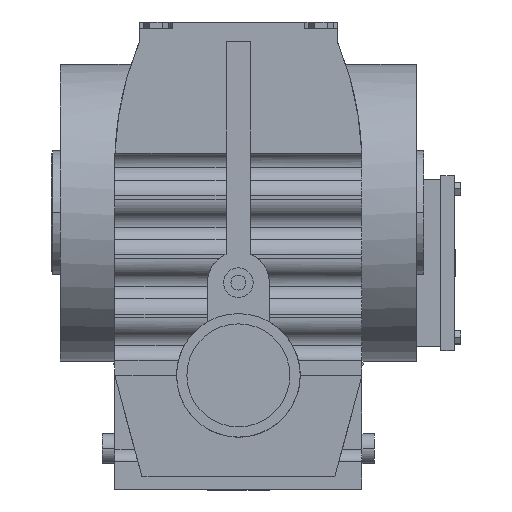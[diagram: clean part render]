
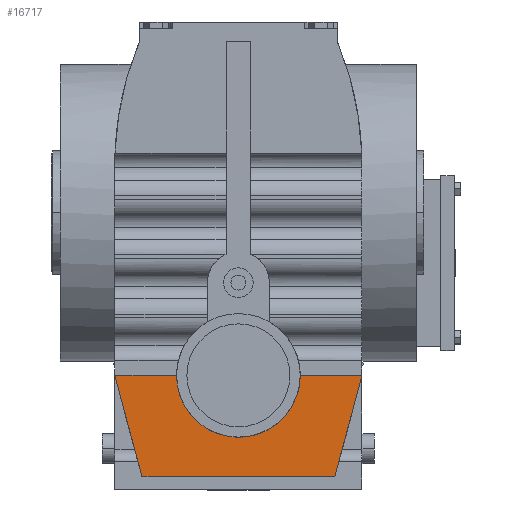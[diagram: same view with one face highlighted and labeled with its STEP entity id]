
A CAD part, top view. The second image highlights one B-rep face of the part: STEP entity #16717.
In plain terms, the highlighted planar face has unit normal (0, -0.024, 1).
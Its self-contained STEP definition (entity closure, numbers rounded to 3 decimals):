
#4879 = VERTEX_POINT('',#4880);
#4880 = CARTESIAN_POINT('',(50.,-45.933,175.5));
#4894 = PLANE('',#4895);
#4895 = AXIS2_PLACEMENT_3D('',#4896,#4897,#4898);
#4896 = CARTESIAN_POINT('',(50.,97.,175.5));
#4897 = DIRECTION('',(0.,0.,-1.));
#4898 = DIRECTION('',(0.,1.,0.));
#4922 = PLANE('',#4923);
#4923 = AXIS2_PLACEMENT_3D('',#4924,#4925,#4926);
#4924 = CARTESIAN_POINT('',(50.,-45.933,-3.));
#4925 = DIRECTION('',(0.966,-0.259,0.));
#4926 = DIRECTION('',(0.259,0.966,0.));
#7547 = VERTEX_POINT('',#7548);
#7548 = CARTESIAN_POINT('',(25.,-45.933,175.5));
#7580 = EDGE_CURVE('',#4879,#7547,#7581,.T.);
#7581 = SURFACE_CURVE('',#7582,(#7586,#7593),.PCURVE_S1.);
#7582 = LINE('',#7583,#7584);
#7583 = CARTESIAN_POINT('',(50.,-45.933,175.5));
#7584 = VECTOR('',#7585,1.);
#7585 = DIRECTION('',(-1.,0.,0.));
#7586 = PCURVE('',#4894,#7587);
#7587 = DEFINITIONAL_REPRESENTATION('',(#7588),#7592);
#7588 = LINE('',#7589,#7590);
#7589 = CARTESIAN_POINT('',(-142.933,0.));
#7590 = VECTOR('',#7591,1.);
#7591 = DIRECTION('',(0.,-1.));
#7592 = ( GEOMETRIC_REPRESENTATION_CONTEXT(2) 
PARAMETRIC_REPRESENTATION_CONTEXT() REPRESENTATION_CONTEXT('2D SPACE',''
  ) );
#7593 = PCURVE('',#7594,#7599);
#7594 = PLANE('',#7595);
#7595 = AXIS2_PLACEMENT_3D('',#7596,#7597,#7598);
#7596 = CARTESIAN_POINT('',(50.,-87.,174.5));
#7597 = DIRECTION('',(0.,0.024,-1.));
#7598 = DIRECTION('',(0.,1.,0.024));
#7599 = DEFINITIONAL_REPRESENTATION('',(#7600),#7604);
#7600 = LINE('',#7601,#7602);
#7601 = CARTESIAN_POINT('',(41.079,0.));
#7602 = VECTOR('',#7603,1.);
#7603 = DIRECTION('',(0.,-1.));
#7604 = ( GEOMETRIC_REPRESENTATION_CONTEXT(2) 
PARAMETRIC_REPRESENTATION_CONTEXT() REPRESENTATION_CONTEXT('2D SPACE',''
  ) );
#8781 = PLANE('',#8782);
#8782 = AXIS2_PLACEMENT_3D('',#8783,#8784,#8785);
#8783 = CARTESIAN_POINT('',(-50.,-45.933,-3.));
#8784 = DIRECTION('',(-0.966,-0.259,0.));
#8785 = DIRECTION('',(0.259,-0.966,0.));
#8926 = PLANE('',#8927);
#8927 = AXIS2_PLACEMENT_3D('',#8928,#8929,#8930);
#8928 = CARTESIAN_POINT('',(50.,-87.,26.5));
#8929 = DIRECTION('',(0.,1.,0.));
#8930 = DIRECTION('',(0.,0.,1.));
#8964 = EDGE_CURVE('',#4879,#8965,#8967,.T.);
#8965 = VERTEX_POINT('',#8966);
#8966 = CARTESIAN_POINT('',(38.996,-87.,174.5));
#8967 = SURFACE_CURVE('',#8968,(#8972,#8979),.PCURVE_S1.);
#8968 = LINE('',#8969,#8970);
#8969 = CARTESIAN_POINT('',(39.733,-84.251,
    174.567));
#8970 = VECTOR('',#8971,1.);
#8971 = DIRECTION('',(-0.259,-0.966,
    -0.024));
#8972 = PCURVE('',#4922,#8973);
#8973 = DEFINITIONAL_REPRESENTATION('',(#8974),#8978);
#8974 = LINE('',#8975,#8976);
#8975 = CARTESIAN_POINT('',(-39.669,177.567));
#8976 = VECTOR('',#8977,1.);
#8977 = DIRECTION('',(-1.,-0.024));
#8978 = ( GEOMETRIC_REPRESENTATION_CONTEXT(2) 
PARAMETRIC_REPRESENTATION_CONTEXT() REPRESENTATION_CONTEXT('2D SPACE',''
  ) );
#8979 = PCURVE('',#7594,#8980);
#8980 = DEFINITIONAL_REPRESENTATION('',(#8981),#8985);
#8981 = LINE('',#8982,#8983);
#8982 = CARTESIAN_POINT('',(2.75,-10.267));
#8983 = VECTOR('',#8984,1.);
#8984 = DIRECTION('',(-0.966,-0.259));
#8985 = ( GEOMETRIC_REPRESENTATION_CONTEXT(2) 
PARAMETRIC_REPRESENTATION_CONTEXT() REPRESENTATION_CONTEXT('2D SPACE',''
  ) );
#16717 = ADVANCED_FACE('',(#16718),#7594,.F.);
#16718 = FACE_BOUND('',#16719,.T.);
#16719 = EDGE_LOOP('',(#16720,#16772,#16800,#16823,#16844,#16845));
#16720 = ORIENTED_EDGE('',*,*,#16721,.F.);
#16721 = EDGE_CURVE('',#16722,#7547,#16724,.T.);
#16722 = VERTEX_POINT('',#16723);
#16723 = CARTESIAN_POINT('',(-25.,-45.933,175.5));
#16724 = SURFACE_CURVE('',#16725,(#16730,#16738),.PCURVE_S1.);
#16725 = ( BOUNDED_CURVE() B_SPLINE_CURVE(3,(#16726,#16727,#16728,#16729
),.UNSPECIFIED.,.F.,.F.) B_SPLINE_CURVE_WITH_KNOTS((4,4),(4.712
,7.854),.PIECEWISE_BEZIER_KNOTS.) CURVE() 
GEOMETRIC_REPRESENTATION_ITEM() RATIONAL_B_SPLINE_CURVE((1.,
0.333,0.333,1.)) REPRESENTATION_ITEM('') );
#16726 = CARTESIAN_POINT('',(-25.,-45.933,175.5));
#16727 = CARTESIAN_POINT('',(-25.,-95.933,174.282));
#16728 = CARTESIAN_POINT('',(25.,-95.933,174.282));
#16729 = CARTESIAN_POINT('',(25.,-45.933,175.5));
#16730 = PCURVE('',#7594,#16731);
#16731 = DEFINITIONAL_REPRESENTATION('',(#16732),#16737);
#16732 = ( BOUNDED_CURVE() B_SPLINE_CURVE(3,(#16733,#16734,#16735,#16736
),.UNSPECIFIED.,.F.,.F.) B_SPLINE_CURVE_WITH_KNOTS((4,4),(4.712
,7.854),.PIECEWISE_BEZIER_KNOTS.) CURVE() 
GEOMETRIC_REPRESENTATION_ITEM() RATIONAL_B_SPLINE_CURVE((1.,
0.333,0.333,1.)) REPRESENTATION_ITEM('') );
#16733 = CARTESIAN_POINT('',(41.079,-75.));
#16734 = CARTESIAN_POINT('',(-8.936,-75.));
#16735 = CARTESIAN_POINT('',(-8.936,-25.));
#16736 = CARTESIAN_POINT('',(41.079,-25.));
#16737 = ( GEOMETRIC_REPRESENTATION_CONTEXT(2) 
PARAMETRIC_REPRESENTATION_CONTEXT() REPRESENTATION_CONTEXT('2D SPACE',''
  ) );
#16738 = PCURVE('',#16739,#16744);
#16739 = CYLINDRICAL_SURFACE('',#16740,25.);
#16740 = AXIS2_PLACEMENT_3D('',#16741,#16742,#16743);
#16741 = CARTESIAN_POINT('',(0.,-45.933,179.5));
#16742 = DIRECTION('',(0.,0.,-1.));
#16743 = DIRECTION('',(-1.,0.,0.));
#16744 = DEFINITIONAL_REPRESENTATION('',(#16745),#16771);
#16745 = B_SPLINE_CURVE_WITH_KNOTS('',3,(#16746,#16747,#16748,#16749,
    #16750,#16751,#16752,#16753,#16754,#16755,#16756,#16757,#16758,
    #16759,#16760,#16761,#16762,#16763,#16764,#16765,#16766,#16767,
    #16768,#16769,#16770),.UNSPECIFIED.,.F.,.F.,(4,1,1,1,1,1,1,1,1,1,1,1
    ,1,1,1,1,1,1,1,1,1,1,4),(4.712,4.855,
    4.998,5.141,5.284,5.426,
    5.569,5.712,5.855,5.998,
    6.14,6.283,6.426,6.569,
    6.712,6.854,6.997,7.14,
    7.283,7.426,7.568,7.711,
    7.854),.QUASI_UNIFORM_KNOTS.);
#16746 = CARTESIAN_POINT('',(6.283,4.));
#16747 = CARTESIAN_POINT('',(6.253,4.018));
#16748 = CARTESIAN_POINT('',(6.19,4.057));
#16749 = CARTESIAN_POINT('',(6.085,4.12));
#16750 = CARTESIAN_POINT('',(5.972,4.187));
#16751 = CARTESIAN_POINT('',(5.848,4.258));
#16752 = CARTESIAN_POINT('',(5.713,4.33));
#16753 = CARTESIAN_POINT('',(5.567,4.401));
#16754 = CARTESIAN_POINT('',(5.412,4.468));
#16755 = CARTESIAN_POINT('',(5.246,4.527));
#16756 = CARTESIAN_POINT('',(5.073,4.573));
#16757 = CARTESIAN_POINT('',(4.894,4.602));
#16758 = CARTESIAN_POINT('',(4.712,4.612));
#16759 = CARTESIAN_POINT('',(4.531,4.602));
#16760 = CARTESIAN_POINT('',(4.352,4.573));
#16761 = CARTESIAN_POINT('',(4.179,4.527));
#16762 = CARTESIAN_POINT('',(4.013,4.468));
#16763 = CARTESIAN_POINT('',(3.857,4.401));
#16764 = CARTESIAN_POINT('',(3.712,4.33));
#16765 = CARTESIAN_POINT('',(3.577,4.258));
#16766 = CARTESIAN_POINT('',(3.453,4.187));
#16767 = CARTESIAN_POINT('',(3.339,4.12));
#16768 = CARTESIAN_POINT('',(3.235,4.057));
#16769 = CARTESIAN_POINT('',(3.172,4.018));
#16770 = CARTESIAN_POINT('',(3.142,4.));
#16771 = ( GEOMETRIC_REPRESENTATION_CONTEXT(2) 
PARAMETRIC_REPRESENTATION_CONTEXT() REPRESENTATION_CONTEXT('2D SPACE',''
  ) );
#16772 = ORIENTED_EDGE('',*,*,#16773,.T.);
#16773 = EDGE_CURVE('',#16722,#16774,#16776,.T.);
#16774 = VERTEX_POINT('',#16775);
#16775 = CARTESIAN_POINT('',(-50.,-45.933,175.5));
#16776 = SURFACE_CURVE('',#16777,(#16781,#16788),.PCURVE_S1.);
#16777 = LINE('',#16778,#16779);
#16778 = CARTESIAN_POINT('',(50.,-45.933,175.5));
#16779 = VECTOR('',#16780,1.);
#16780 = DIRECTION('',(-1.,0.,0.));
#16781 = PCURVE('',#7594,#16782);
#16782 = DEFINITIONAL_REPRESENTATION('',(#16783),#16787);
#16783 = LINE('',#16784,#16785);
#16784 = CARTESIAN_POINT('',(41.079,0.));
#16785 = VECTOR('',#16786,1.);
#16786 = DIRECTION('',(0.,-1.));
#16787 = ( GEOMETRIC_REPRESENTATION_CONTEXT(2) 
PARAMETRIC_REPRESENTATION_CONTEXT() REPRESENTATION_CONTEXT('2D SPACE',''
  ) );
#16788 = PCURVE('',#16789,#16794);
#16789 = PLANE('',#16790);
#16790 = AXIS2_PLACEMENT_3D('',#16791,#16792,#16793);
#16791 = CARTESIAN_POINT('',(50.,97.,175.5));
#16792 = DIRECTION('',(0.,0.,-1.));
#16793 = DIRECTION('',(0.,1.,0.));
#16794 = DEFINITIONAL_REPRESENTATION('',(#16795),#16799);
#16795 = LINE('',#16796,#16797);
#16796 = CARTESIAN_POINT('',(-142.933,0.));
#16797 = VECTOR('',#16798,1.);
#16798 = DIRECTION('',(0.,-1.));
#16799 = ( GEOMETRIC_REPRESENTATION_CONTEXT(2) 
PARAMETRIC_REPRESENTATION_CONTEXT() REPRESENTATION_CONTEXT('2D SPACE',''
  ) );
#16800 = ORIENTED_EDGE('',*,*,#16801,.F.);
#16801 = EDGE_CURVE('',#16802,#16774,#16804,.T.);
#16802 = VERTEX_POINT('',#16803);
#16803 = CARTESIAN_POINT('',(-38.996,-87.,174.5));
#16804 = SURFACE_CURVE('',#16805,(#16809,#16816),.PCURVE_S1.);
#16805 = LINE('',#16806,#16807);
#16806 = CARTESIAN_POINT('',(-33.038,-109.237,
    173.959));
#16807 = VECTOR('',#16808,1.);
#16808 = DIRECTION('',(-0.259,0.966,
    0.024));
#16809 = PCURVE('',#7594,#16810);
#16810 = DEFINITIONAL_REPRESENTATION('',(#16811),#16815);
#16811 = LINE('',#16812,#16813);
#16812 = CARTESIAN_POINT('',(-22.243,-83.038));
#16813 = VECTOR('',#16814,1.);
#16814 = DIRECTION('',(0.966,-0.259));
#16815 = ( GEOMETRIC_REPRESENTATION_CONTEXT(2) 
PARAMETRIC_REPRESENTATION_CONTEXT() REPRESENTATION_CONTEXT('2D SPACE',''
  ) );
#16816 = PCURVE('',#8781,#16817);
#16817 = DEFINITIONAL_REPRESENTATION('',(#16818),#16822);
#16818 = LINE('',#16819,#16820);
#16819 = CARTESIAN_POINT('',(65.537,176.959));
#16820 = VECTOR('',#16821,1.);
#16821 = DIRECTION('',(-1.,0.024));
#16822 = ( GEOMETRIC_REPRESENTATION_CONTEXT(2) 
PARAMETRIC_REPRESENTATION_CONTEXT() REPRESENTATION_CONTEXT('2D SPACE',''
  ) );
#16823 = ORIENTED_EDGE('',*,*,#16824,.F.);
#16824 = EDGE_CURVE('',#8965,#16802,#16825,.T.);
#16825 = SURFACE_CURVE('',#16826,(#16830,#16837),.PCURVE_S1.);
#16826 = LINE('',#16827,#16828);
#16827 = CARTESIAN_POINT('',(50.,-87.,174.5));
#16828 = VECTOR('',#16829,1.);
#16829 = DIRECTION('',(-1.,0.,0.));
#16830 = PCURVE('',#7594,#16831);
#16831 = DEFINITIONAL_REPRESENTATION('',(#16832),#16836);
#16832 = LINE('',#16833,#16834);
#16833 = CARTESIAN_POINT('',(0.,0.));
#16834 = VECTOR('',#16835,1.);
#16835 = DIRECTION('',(0.,-1.));
#16836 = ( GEOMETRIC_REPRESENTATION_CONTEXT(2) 
PARAMETRIC_REPRESENTATION_CONTEXT() REPRESENTATION_CONTEXT('2D SPACE',''
  ) );
#16837 = PCURVE('',#8926,#16838);
#16838 = DEFINITIONAL_REPRESENTATION('',(#16839),#16843);
#16839 = LINE('',#16840,#16841);
#16840 = CARTESIAN_POINT('',(148.,0.));
#16841 = VECTOR('',#16842,1.);
#16842 = DIRECTION('',(0.,-1.));
#16843 = ( GEOMETRIC_REPRESENTATION_CONTEXT(2) 
PARAMETRIC_REPRESENTATION_CONTEXT() REPRESENTATION_CONTEXT('2D SPACE',''
  ) );
#16844 = ORIENTED_EDGE('',*,*,#8964,.F.);
#16845 = ORIENTED_EDGE('',*,*,#7580,.T.);
